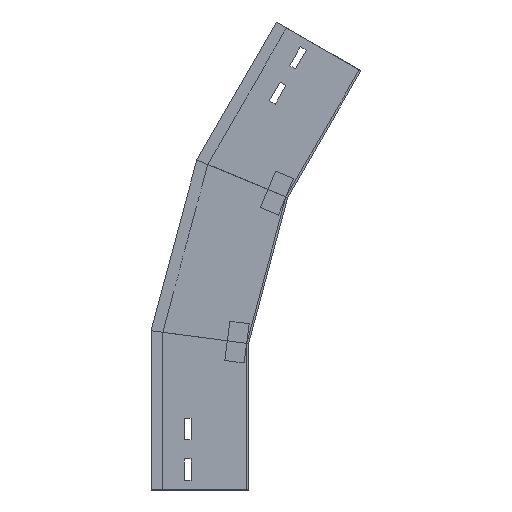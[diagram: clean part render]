
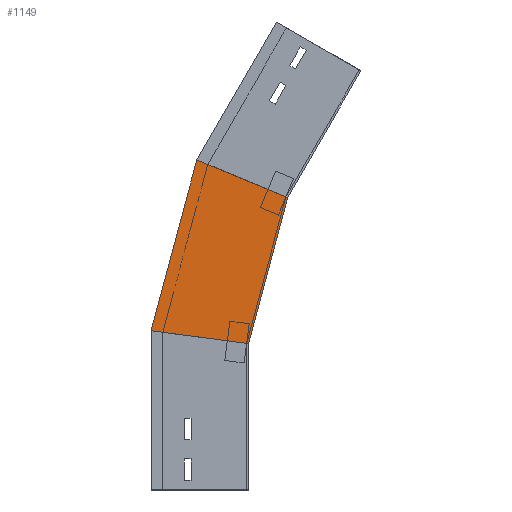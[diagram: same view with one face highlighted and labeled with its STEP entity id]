
A CAD part, left-side view. The second image highlights one B-rep face of the part: STEP entity #1149.
In plain terms, the highlighted planar face has unit normal (-1, 0, 0) as drawn and (1, 0, 0) by its records, which use the part's own axes.
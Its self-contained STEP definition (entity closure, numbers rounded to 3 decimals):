
#65 = CARTESIAN_POINT ( 'NONE',  ( 0., -60.567, 291.248 ) ) ;
#86 = VERTEX_POINT ( 'NONE', #1385 ) ;
#89 = VERTEX_POINT ( 'NONE', #91 ) ;
#91 = CARTESIAN_POINT ( 'NONE',  ( 0., 0., 150. ) ) ;
#99 = AXIS2_PLACEMENT_3D ( 'NONE', #359, #595, #1067 ) ;
#110 = PLANE ( 'NONE',  #99 ) ;
#128 = FACE_OUTER_BOUND ( 'NONE', #894, .T. ) ;
#134 = VERTEX_POINT ( 'NONE', #145 ) ;
#141 = CARTESIAN_POINT ( 'NONE',  ( 0., 100.367, 161.797 ) ) ;
#145 = CARTESIAN_POINT ( 'NONE',  ( 0., 100., 163.165 ) ) ;
#260 = CARTESIAN_POINT ( 'NONE',  ( 0., 3.774, 135.915 ) ) ;
#359 = CARTESIAN_POINT ( 'NONE',  ( 0., 3.774, 135.915 ) ) ;
#386 = ORIENTED_EDGE ( 'NONE', *, *, #1338, .F. ) ;
#501 = CARTESIAN_POINT ( 'NONE',  ( 0., -19.411, 147.444 ) ) ;
#518 = ORIENTED_EDGE ( 'NONE', *, *, #1262, .T. ) ;
#550 = LINE ( 'NONE', #65, #785 ) ;
#594 = VECTOR ( 'NONE', #629, 1000. ) ;
#595 = DIRECTION ( 'NONE',  ( 1., 0., 0. ) ) ;
#601 = LINE ( 'NONE', #260, #594 ) ;
#609 = DIRECTION ( 'NONE',  ( 0., -0.991, -0.131 ) ) ;
#629 = DIRECTION ( 'NONE',  ( 0., -0.259, 0.966 ) ) ;
#702 = VECTOR ( 'NONE', #963, 1000. ) ;
#785 = VECTOR ( 'NONE', #1476, 1000. ) ;
#894 = EDGE_LOOP ( 'NONE', ( #1364, #518, #956, #386 ) ) ;
#956 = ORIENTED_EDGE ( 'NONE', *, *, #1336, .F. ) ;
#961 = LINE ( 'NONE', #501, #1184 ) ;
#963 = DIRECTION ( 'NONE',  ( 0., -0.259, 0.966 ) ) ;
#1062 = CARTESIAN_POINT ( 'NONE',  ( 0., -40.117, 299.719 ) ) ;
#1067 = DIRECTION ( 'NONE',  ( 0., 0., -1. ) ) ;
#1087 = EDGE_CURVE ( 'NONE', #134, #86, #1088, .T. ) ;
#1088 = LINE ( 'NONE', #141, #702 ) ;
#1134 = VERTEX_POINT ( 'NONE', #1062 ) ;
#1149 = ADVANCED_FACE ( 'NONE', ( #128 ), #110, .T. ) ;
#1184 = VECTOR ( 'NONE', #609, 1000. ) ;
#1262 = EDGE_CURVE ( 'NONE', #86, #1134, #550, .T. ) ;
#1336 = EDGE_CURVE ( 'NONE', #89, #1134, #601, .T. ) ;
#1338 = EDGE_CURVE ( 'NONE', #134, #89, #961, .T. ) ;
#1364 = ORIENTED_EDGE ( 'NONE', *, *, #1087, .T. ) ;
#1385 = CARTESIAN_POINT ( 'NONE',  ( 0., 53.068, 338.317 ) ) ;
#1476 = DIRECTION ( 'NONE',  ( 0., -0.924, -0.383 ) ) ;
